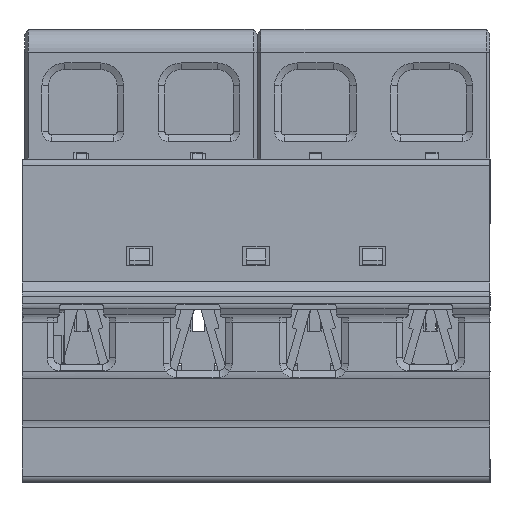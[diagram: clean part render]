
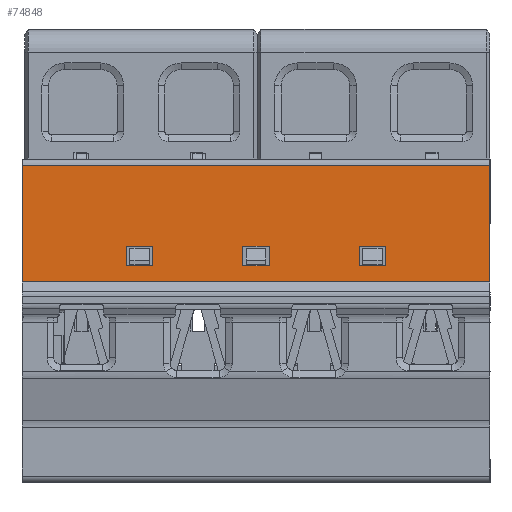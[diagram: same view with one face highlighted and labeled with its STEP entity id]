
A CAD part, left-side view. The second image highlights one B-rep face of the part: STEP entity #74848.
In plain terms, the highlighted planar face has unit normal (-1, 0, 0).
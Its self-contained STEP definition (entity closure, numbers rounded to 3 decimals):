
#4497=DIRECTION('',(0.,0.,-1.));
#4498=VECTOR('',#4497,17.8);
#4499=CARTESIAN_POINT('',(-0.05,71.6,43.));
#4500=LINE('',#4499,#4498);
#14987=DIRECTION('',(0.,0.,-1.));
#14988=VECTOR('',#14987,3.);
#14989=CARTESIAN_POINT('',(-0.05,33.8,30.7));
#14990=LINE('',#14989,#14988);
#14999=DIRECTION('',(0.,0.,-1.));
#15000=VECTOR('',#14999,17.8);
#15001=CARTESIAN_POINT('',(-0.05,0.,43.));
#15002=LINE('',#15001,#15000);
#15003=DIRECTION('',(0.,0.,1.));
#15004=VECTOR('',#15003,3.);
#15005=CARTESIAN_POINT('',(-0.05,16.,27.7));
#15006=LINE('',#15005,#15004);
#15007=DIRECTION('',(0.,-1.,0.));
#15008=VECTOR('',#15007,4.);
#15009=CARTESIAN_POINT('',(-0.05,20.,27.7));
#15010=LINE('',#15009,#15008);
#15011=DIRECTION('',(0.,0.,1.));
#15012=VECTOR('',#15011,3.);
#15013=CARTESIAN_POINT('',(-0.05,51.6,27.7));
#15014=LINE('',#15013,#15012);
#15015=DIRECTION('',(0.,1.,0.));
#15016=VECTOR('',#15015,4.);
#15017=CARTESIAN_POINT('',(-0.05,51.6,30.7));
#15018=LINE('',#15017,#15016);
#15019=DIRECTION('',(0.,1.,0.));
#15020=VECTOR('',#15019,71.6);
#15021=CARTESIAN_POINT('',(-0.05,0.,43.));
#15022=LINE('',#15021,#15020);
#15031=DIRECTION('',(0.,-1.,0.));
#15032=VECTOR('',#15031,71.6);
#15033=CARTESIAN_POINT('',(-0.05,71.6,25.2));
#15034=LINE('',#15033,#15032);
#33071=DIRECTION('',(0.,0.,1.));
#33072=VECTOR('',#33071,3.);
#33073=CARTESIAN_POINT('',(-0.05,55.6,27.7));
#33074=LINE('',#33073,#33072);
#33083=DIRECTION('',(0.,1.,0.));
#33084=VECTOR('',#33083,4.);
#33085=CARTESIAN_POINT('',(-0.05,51.6,27.7));
#33086=LINE('',#33085,#33084);
#34013=DIRECTION('',(0.,-1.,0.));
#34014=VECTOR('',#34013,4.);
#34015=CARTESIAN_POINT('',(-0.05,37.8,30.7));
#34016=LINE('',#34015,#34014);
#34021=DIRECTION('',(0.,0.,1.));
#34022=VECTOR('',#34021,3.);
#34023=CARTESIAN_POINT('',(-0.05,37.8,27.7));
#34024=LINE('',#34023,#34022);
#34029=DIRECTION('',(0.,1.,0.));
#34030=VECTOR('',#34029,4.);
#34031=CARTESIAN_POINT('',(-0.05,33.8,27.7));
#34032=LINE('',#34031,#34030);
#34053=DIRECTION('',(0.,-1.,0.));
#34054=VECTOR('',#34053,4.);
#34055=CARTESIAN_POINT('',(-0.05,20.,30.7));
#34056=LINE('',#34055,#34054);
#34061=DIRECTION('',(0.,0.,1.));
#34062=VECTOR('',#34061,3.);
#34063=CARTESIAN_POINT('',(-0.05,20.,27.7));
#34064=LINE('',#34063,#34062);
#42473=CARTESIAN_POINT('',(-0.05,0.,25.2));
#42474=VERTEX_POINT('',#42473);
#42475=CARTESIAN_POINT('',(-0.05,0.,43.));
#42476=VERTEX_POINT('',#42475);
#43848=CARTESIAN_POINT('',(-0.05,71.6,25.2));
#43850=VERTEX_POINT('',#43848);
#43925=CARTESIAN_POINT('',(-0.05,71.6,43.));
#43926=VERTEX_POINT('',#43925);
#46461=CARTESIAN_POINT('',(-0.05,33.8,30.7));
#46462=CARTESIAN_POINT('',(-0.05,33.8,27.7));
#46463=VERTEX_POINT('',#46461);
#46464=VERTEX_POINT('',#46462);
#46465=CARTESIAN_POINT('',(-0.05,37.8,30.7));
#46466=VERTEX_POINT('',#46465);
#46467=CARTESIAN_POINT('',(-0.05,37.8,27.7));
#46468=VERTEX_POINT('',#46467);
#46469=CARTESIAN_POINT('',(-0.05,16.,27.7));
#46470=CARTESIAN_POINT('',(-0.05,16.,30.7));
#46471=VERTEX_POINT('',#46469);
#46472=VERTEX_POINT('',#46470);
#46473=CARTESIAN_POINT('',(-0.05,20.,30.7));
#46474=VERTEX_POINT('',#46473);
#46475=CARTESIAN_POINT('',(-0.05,20.,27.7));
#46476=VERTEX_POINT('',#46475);
#46477=CARTESIAN_POINT('',(-0.05,55.6,27.7));
#46478=CARTESIAN_POINT('',(-0.05,55.6,30.7));
#46479=VERTEX_POINT('',#46477);
#46480=VERTEX_POINT('',#46478);
#46481=CARTESIAN_POINT('',(-0.05,51.6,27.7));
#46482=VERTEX_POINT('',#46481);
#46483=CARTESIAN_POINT('',(-0.05,51.6,30.7));
#46484=VERTEX_POINT('',#46483);
#74806=CARTESIAN_POINT('',(-0.05,35.8,-5.5));
#74807=DIRECTION('',(-1.,0.,0.));
#74808=DIRECTION('',(0.,0.,1.));
#74809=AXIS2_PLACEMENT_3D('',#74806,#74807,#74808);
#74810=PLANE('',#74809);
#74811=ORIENTED_EDGE('',*,*,#58907,.F.);
#74813=ORIENTED_EDGE('',*,*,#74812,.F.);
#74814=ORIENTED_EDGE('',*,*,#56781,.T.);
#74816=ORIENTED_EDGE('',*,*,#74815,.F.);
#74817=EDGE_LOOP('',(#74811,#74813,#74814,#74816));
#74818=FACE_OUTER_BOUND('',#74817,.F.);
#74819=ORIENTED_EDGE('',*,*,#74796,.F.);
#74821=ORIENTED_EDGE('',*,*,#74820,.F.);
#74823=ORIENTED_EDGE('',*,*,#74822,.F.);
#74825=ORIENTED_EDGE('',*,*,#74824,.F.);
#74826=EDGE_LOOP('',(#74819,#74821,#74823,#74825));
#74827=FACE_BOUND('',#74826,.F.);
#74829=ORIENTED_EDGE('',*,*,#74828,.T.);
#74831=ORIENTED_EDGE('',*,*,#74830,.F.);
#74833=ORIENTED_EDGE('',*,*,#74832,.F.);
#74835=ORIENTED_EDGE('',*,*,#74834,.T.);
#74836=EDGE_LOOP('',(#74829,#74831,#74833,#74835));
#74837=FACE_BOUND('',#74836,.F.);
#74839=ORIENTED_EDGE('',*,*,#74838,.F.);
#74841=ORIENTED_EDGE('',*,*,#74840,.F.);
#74843=ORIENTED_EDGE('',*,*,#74842,.T.);
#74845=ORIENTED_EDGE('',*,*,#74844,.T.);
#74846=EDGE_LOOP('',(#74839,#74841,#74843,#74845));
#74847=FACE_BOUND('',#74846,.F.);
#74848=ADVANCED_FACE('',(#74818,#74827,#74837,#74847),#74810,.T.);
#56781=EDGE_CURVE('',#42476,#42474,#15002,.T.);
#58907=EDGE_CURVE('',#43926,#43850,#4500,.T.);
#74796=EDGE_CURVE('',#46463,#46464,#14990,.T.);
#74812=EDGE_CURVE('',#42476,#43926,#15022,.T.);
#74815=EDGE_CURVE('',#43850,#42474,#15034,.T.);
#74820=EDGE_CURVE('',#46466,#46463,#34016,.T.);
#74822=EDGE_CURVE('',#46468,#46466,#34024,.T.);
#74824=EDGE_CURVE('',#46464,#46468,#34032,.T.);
#74828=EDGE_CURVE('',#46471,#46472,#15006,.T.);
#74830=EDGE_CURVE('',#46474,#46472,#34056,.T.);
#74832=EDGE_CURVE('',#46476,#46474,#34064,.T.);
#74834=EDGE_CURVE('',#46476,#46471,#15010,.T.);
#74838=EDGE_CURVE('',#46479,#46480,#33074,.T.);
#74840=EDGE_CURVE('',#46482,#46479,#33086,.T.);
#74842=EDGE_CURVE('',#46482,#46484,#15014,.T.);
#74844=EDGE_CURVE('',#46484,#46480,#15018,.T.);
